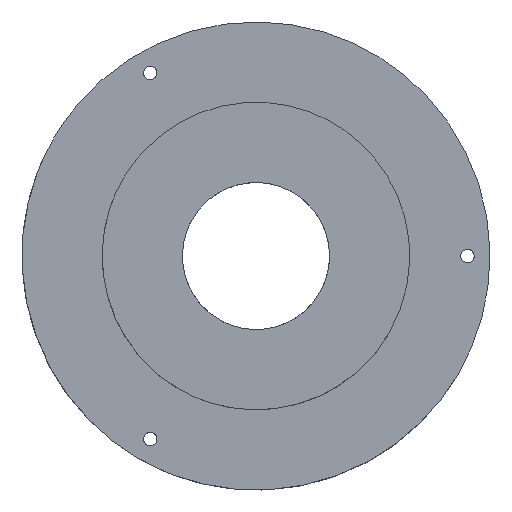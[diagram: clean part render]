
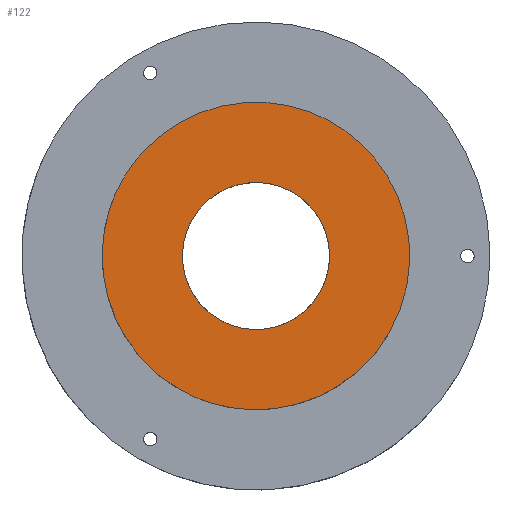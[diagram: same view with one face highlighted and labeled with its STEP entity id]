
A CAD part, front view. The second image highlights one B-rep face of the part: STEP entity #122.
In plain terms, the highlighted free-form (B-spline) face has degree [1, 1] with [2, 2] control points.
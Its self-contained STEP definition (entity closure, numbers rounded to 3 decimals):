
#122=ADVANCED_FACE('',(#235,#215),#1276,.T.);
#215=FACE_BOUND('',#335,.T.);
#235=FACE_OUTER_BOUND('',#334,.T.);
#334=EDGE_LOOP('',(#484,#485,#486));
#335=EDGE_LOOP('',(#487,#488,#489));
#484=ORIENTED_EDGE('',*,*,#858,.T.);
#485=ORIENTED_EDGE('',*,*,#863,.F.);
#486=ORIENTED_EDGE('',*,*,#866,.F.);
#487=ORIENTED_EDGE('',*,*,#857,.T.);
#488=ORIENTED_EDGE('',*,*,#855,.T.);
#489=ORIENTED_EDGE('',*,*,#850,.T.);
#850=EDGE_CURVE('',#1076,#1077,#3055,.T.);
#855=EDGE_CURVE('',#1079,#1076,#3057,.T.);
#857=EDGE_CURVE('',#1077,#1079,#3059,.T.);
#858=EDGE_CURVE('',#1080,#1081,#3060,.T.);
#863=EDGE_CURVE('',#1085,#1081,#3063,.T.);
#866=EDGE_CURVE('',#1080,#1085,#3065,.T.);
#1076=VERTEX_POINT('',#2486);
#1077=VERTEX_POINT('',#2487);
#1079=VERTEX_POINT('',#2489);
#1080=VERTEX_POINT('',#2490);
#1081=VERTEX_POINT('',#2491);
#1085=VERTEX_POINT('',#2495);
#1276=B_SPLINE_SURFACE_WITH_KNOTS('',1,1,((#1926,#1927),(#1928,#1929)),.UNSPECIFIED.,
.F.,.F.,.F.,(2,2),(2,2),(-81.6,81.6),(-81.6,81.6),.UNSPECIFIED.);
#1441=CARTESIAN_POINT('',(-19.125,20.,-33.125));
#1442=CARTESIAN_POINT('',(-52.25,20.,-14.));
#1443=CARTESIAN_POINT('',(-33.125,20.,19.125));
#1453=CARTESIAN_POINT('',(33.125,20.,-19.125));
#1454=CARTESIAN_POINT('',(14.,20.,-52.25));
#1455=CARTESIAN_POINT('',(-19.125,20.,-33.125));
#1459=CARTESIAN_POINT('',(-33.125,20.,19.125));
#1460=CARTESIAN_POINT('',(-14.,20.,52.25));
#1461=CARTESIAN_POINT('',(19.125,20.,33.125));
#1462=CARTESIAN_POINT('',(52.25,20.,14.));
#1463=CARTESIAN_POINT('',(33.125,20.,-19.125));
#1464=CARTESIAN_POINT('',(69.282,20.,-40.));
#1465=CARTESIAN_POINT('',(109.282,20.,29.282));
#1466=CARTESIAN_POINT('',(40.,20.,69.282));
#1467=CARTESIAN_POINT('',(-29.282,20.,109.282));
#1468=CARTESIAN_POINT('',(-69.282,20.,40.));
#1481=CARTESIAN_POINT('',(-40.,20.,-69.282));
#1482=CARTESIAN_POINT('',(-109.282,20.,-29.282));
#1483=CARTESIAN_POINT('',(-69.282,20.,40.));
#1489=CARTESIAN_POINT('',(69.282,20.,-40.));
#1490=CARTESIAN_POINT('',(29.282,20.,-109.282));
#1491=CARTESIAN_POINT('',(-40.,20.,-69.282));
#1926=CARTESIAN_POINT('',(111.468,20.,29.868));
#1927=CARTESIAN_POINT('',(29.868,20.,-111.468));
#1928=CARTESIAN_POINT('',(-29.868,20.,111.468));
#1929=CARTESIAN_POINT('',(-111.468,20.,-29.868));
#2486=CARTESIAN_POINT('',(-19.125,20.,-33.125));
#2487=CARTESIAN_POINT('',(-33.125,20.,19.125));
#2489=CARTESIAN_POINT('',(33.125,20.,-19.125));
#2490=CARTESIAN_POINT('',(69.282,20.,-40.));
#2491=CARTESIAN_POINT('',(-69.282,20.,40.));
#2495=CARTESIAN_POINT('',(-40.,20.,-69.282));
#3055=(
BOUNDED_CURVE()
B_SPLINE_CURVE(2,(#1441,#1442,#1443),.UNSPECIFIED.,.F.,.F.)
B_SPLINE_CURVE_WITH_KNOTS((3,3),(60.083,120.166),.UNSPECIFIED.)
CURVE()
GEOMETRIC_REPRESENTATION_ITEM()
RATIONAL_B_SPLINE_CURVE((1.,0.707,1.))
REPRESENTATION_ITEM('')
);
#3057=(
BOUNDED_CURVE()
B_SPLINE_CURVE(2,(#1453,#1454,#1455),.UNSPECIFIED.,.F.,.F.)
B_SPLINE_CURVE_WITH_KNOTS((3,3),(0.,60.083),.UNSPECIFIED.)
CURVE()
GEOMETRIC_REPRESENTATION_ITEM()
RATIONAL_B_SPLINE_CURVE((1.,0.707,1.))
REPRESENTATION_ITEM('')
);
#3059=(
BOUNDED_CURVE()
B_SPLINE_CURVE(2,(#1459,#1460,#1461,#1462,#1463),.UNSPECIFIED.,.F.,.F.)
B_SPLINE_CURVE_WITH_KNOTS((3,2,3),(-120.166,-60.083,0.),
.UNSPECIFIED.)
CURVE()
GEOMETRIC_REPRESENTATION_ITEM()
RATIONAL_B_SPLINE_CURVE((1.,0.707,1.,0.707,1.))
REPRESENTATION_ITEM('')
);
#3060=(
BOUNDED_CURVE()
B_SPLINE_CURVE(2,(#1464,#1465,#1466,#1467,#1468),.UNSPECIFIED.,.F.,.F.)
B_SPLINE_CURVE_WITH_KNOTS((3,2,3),(0.,125.664,251.327),
.UNSPECIFIED.)
CURVE()
GEOMETRIC_REPRESENTATION_ITEM()
RATIONAL_B_SPLINE_CURVE((1.,0.707,1.,0.707,1.))
REPRESENTATION_ITEM('')
);
#3063=(
BOUNDED_CURVE()
B_SPLINE_CURVE(2,(#1481,#1482,#1483),.UNSPECIFIED.,.F.,.F.)
B_SPLINE_CURVE_WITH_KNOTS((3,3),(125.664,251.327),.UNSPECIFIED.)
CURVE()
GEOMETRIC_REPRESENTATION_ITEM()
RATIONAL_B_SPLINE_CURVE((1.,0.707,1.))
REPRESENTATION_ITEM('')
);
#3065=(
BOUNDED_CURVE()
B_SPLINE_CURVE(2,(#1489,#1490,#1491),.UNSPECIFIED.,.F.,.F.)
B_SPLINE_CURVE_WITH_KNOTS((3,3),(0.,125.664),.UNSPECIFIED.)
CURVE()
GEOMETRIC_REPRESENTATION_ITEM()
RATIONAL_B_SPLINE_CURVE((1.,0.707,1.))
REPRESENTATION_ITEM('')
);
